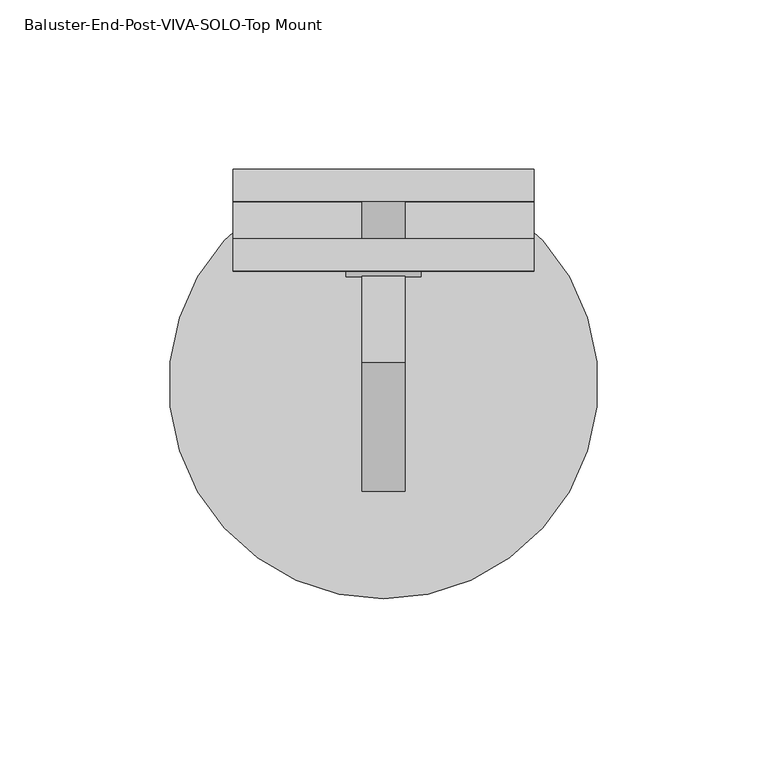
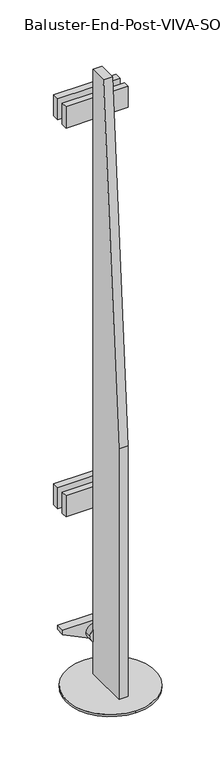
"""IFC4 building model written with IfcOpenShell, lengths in millimetres: proxy geometry, Baluster-End-Post-VIVA-SOLO-Top Mount : CORED INTO CONCRETE_TOP MOUNT FOLD_STRAIGHT."""

from ifc_helpers import new_model, si_unit, point, frame, frame_2d, origin, place, context, project, spatial, polyline, circle_curve, trimmed, segment, composite_curve, outline, extrude, source, transform, mapped, element, save


def baluster_end_post_viva_solo_top_mount_768039ba(model_context):
    return source(origin(), model_context, "Body", "SweptSolid", [
        extrude(outline(composite_curve([segment(trimmed(circle_curve(frame_2d((268.5208758, 0.0)), 6.35), [point((268.5208758, 6.35))], [point((268.5208758, -6.35))], False, "CARTESIAN"), True, "CONTINUOUS"), segment(trimmed(circle_curve(frame_2d((268.5208758, 0.0)), 6.35), [point((268.5208758, -6.35))], [point((268.5208758, 6.35))], False, "CARTESIAN"), True, "CONTINUOUS")], self_intersect=False)), frame((0.0, -42.5925389, 0.0), z_axis=(0.0, 1.0, 0.0), x_axis=(0.0, 0.0, 1.0)), (0.0, 0.0, 1.0), 12.7),
        extrude(outline(composite_curve([segment(trimmed(circle_curve(frame_2d((854.776764, 0.0)), 6.35), [point((854.776764, 6.35))], [point((854.776764, -6.35))], False, "CARTESIAN"), True, "CONTINUOUS"), segment(trimmed(circle_curve(frame_2d((854.776764, 0.0)), 6.35), [point((854.776764, -6.35))], [point((854.776764, 6.35))], False, "CARTESIAN"), True, "CONTINUOUS")], self_intersect=False)), frame((0.0, -42.5925389, 0.0), z_axis=(0.0, 1.0, 0.0), x_axis=(0.0, 0.0, 1.0)), (0.0, 0.0, 1.0), 12.7),
        extrude(outline(composite_curve([segment(trimmed(circle_curve(frame_2d((60.8777263, 0.0)), 11.1125), [point((60.8777263, 11.1125))], [point((60.8777263, -11.1125))], False, "CARTESIAN"), True, "CONTINUOUS"), segment(trimmed(circle_curve(frame_2d((60.8777263, 0.0)), 11.1125), [point((60.8777263, -11.1125))], [point((60.8777263, 11.1125))], False, "CARTESIAN"), True, "CONTINUOUS")], self_intersect=False)), frame((0.0, -52.1175389, 0.0), z_axis=(0.0, 1.0, 0.0), x_axis=(0.0, 0.0, 1.0)), (0.0, 0.0, 1.0), 25.4),
        extrude(outline(polyline([(-52.1175389, 914.8205071), (-52.1175389, 0.4205071), (-115.6175389, 0.4205071), (-115.6175389, 381.4205071), (-77.5175389, 914.8205071), (-52.1175389, 914.8205071)])), frame((-6.35, 0.0, 0.0), z_axis=(1.0, 0.0, 0.0), x_axis=(0.0, 1.0, 0.0)), (0.0, 0.0, 1.0), 12.7),
        extrude(outline(polyline([(-44.45, -20.3675389), (44.45, -20.3675389), (44.45, -29.8925389), (-44.45, -29.8925389), (-44.45, -20.3675389)])), frame((0.0, 0.0, 838.7824344), z_axis=(0.0, 0.0, 1.0), x_axis=(1.0, 0.0, 0.0)), (0.0, 0.0, 1.0), 31.75),
        extrude(outline(polyline([(-44.45, -20.3675389), (44.45, -20.3675389), (44.45, -29.8925389), (-44.45, -29.8925389), (-44.45, -20.3675389)])), frame((0.0, 0.0, 252.4484609), z_axis=(0.0, 0.0, 1.0), x_axis=(1.0, 0.0, 0.0)), (0.0, 0.0, 1.0), 31.75),
        extrude(outline(polyline([(70.3302675, 44.45), (76.6802675, 44.45), (76.6802675, -44.45), (70.3302675, -44.45), (48.4156188, 0.0), (70.3302675, 44.45)])), frame((0.0, -42.5925389, 0.0), z_axis=(0.0, 1.0, 0.0), x_axis=(0.0, 0.0, 1.0)), (0.0, 0.0, 1.0), 12.7),
        extrude(outline(polyline([(-44.45, -40.984781), (44.45, -40.984781), (44.45, -50.509781), (-44.45, -50.509781), (-44.45, -40.984781)])), frame((0.0, 0.0, 838.7824344), z_axis=(0.0, 0.0, 1.0), x_axis=(1.0, 0.0, 0.0)), (0.0, 0.0, 1.0), 31.75),
        extrude(outline(polyline([(-44.45, -40.984781), (44.45, -40.984781), (44.45, -50.509781), (-44.45, -50.509781), (-44.45, -40.984781)])), frame((0.0, 0.0, 252.4484609), z_axis=(0.0, 0.0, 1.0), x_axis=(1.0, 0.0, 0.0)), (0.0, 0.0, 1.0), 31.75),
        extrude(outline(composite_curve([segment(trimmed(circle_curve(frame_2d((0.0, -83.8675389)), 63.5), [point((0.0, -147.3675389))], [point((0.0, -20.3675389))], False, "CARTESIAN"), True, "CONTINUOUS"), segment(trimmed(circle_curve(frame_2d((0.0, -83.8675389)), 63.5), [point((0.0, -20.3675389))], [point((0.0, -147.3675389))], False, "CARTESIAN"), True, "CONTINUOUS")], self_intersect=False)), frame((0.0, 0.0, 0.4205071), z_axis=(0.0, 0.0, 1.0), x_axis=(1.0, 0.0, 0.0)), (0.0, 0.0, 1.0), 3.175),
    ])


if __name__ == "__main__":
    model = new_model("IFC4")
    model_context = context("Model", 3, world=origin())
    ifc_project = project(units=[si_unit("LENGTHUNIT", "METRE", prefix="MILLI")], contexts=[model_context])
    site = spatial("IfcSite", under=ifc_project)
    building = spatial("IfcBuilding", under=site)
    placement = place(None, origin())
    baluster_end_post_viva_solo_top_mount_shape = baluster_end_post_viva_solo_top_mount_768039ba(model_context)
    element("IfcBuildingElementProxy", 1, Name="Baluster-End-Post-VIVA-SOLO-Top Mount : CORED INTO CONCRETE_TOP MOUNT FOLD_STRAIGHT", ObjectType="Baluster-End-Post-VIVA-SOLO-Top Mount : CORED INTO CONCRETE_TOP MOUNT FOLD_STRAIGHT", at=placement, inside=building, context=model_context, shape_type="MappedRepresentation", body=[
        mapped(baluster_end_post_viva_solo_top_mount_shape, transform((0.0, 0.0, 0.0), x_axis=(1.0, 0.0, 0.0), y_axis=(0.0, 1.0, 0.0), z_axis=(0.0, 0.0, 1.0))),
    ])
    save(model, "model.ifc")
